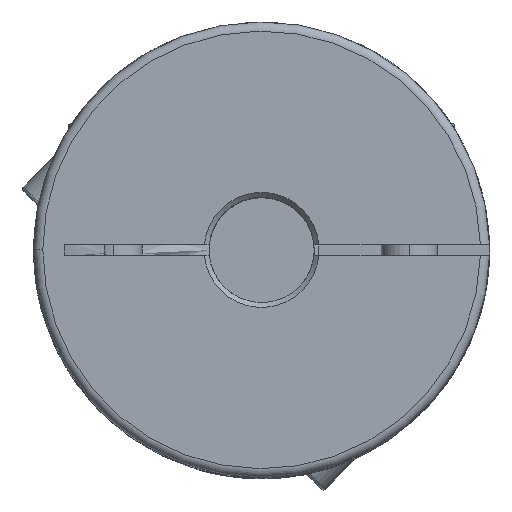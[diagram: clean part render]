
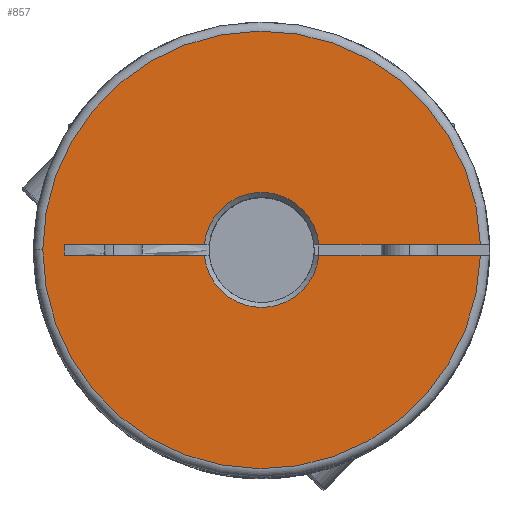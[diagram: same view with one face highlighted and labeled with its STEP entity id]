
A CAD part, top view. The second image highlights one B-rep face of the part: STEP entity #857.
In plain terms, the highlighted planar face has unit normal (0, 0, 1).
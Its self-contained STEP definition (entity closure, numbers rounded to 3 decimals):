
#857 = ADVANCED_FACE ( 'NONE', ( #10893 ), #9930, .F. ) ;
#1410 = EDGE_CURVE ( 'NONE', #11385, #11592, #16042, .T. ) ;
#1411 = EDGE_CURVE ( 'NONE', #11664, #16928, #16035, .T. ) ;
#1412 = EDGE_CURVE ( 'NONE', #11661, #11664, #16044, .T. ) ;
#1413 = EDGE_CURVE ( 'NONE', #11751, #11661, #16046, .T. ) ;
#1414 = EDGE_CURVE ( 'NONE', #11349, #11751, #16048, .T. ) ;
#1442 = EDGE_CURVE ( 'NONE', #11385, #16995, #16076, .T. ) ;
#1452 = EDGE_CURVE ( 'NONE', #11618, #11349, #16085, .T. ) ;
#1459 = EDGE_CURVE ( 'NONE', #11618, #11592, #16091, .T. ) ;
#1943 = EDGE_CURVE ( 'NONE', #16928, #16995, #12212, .T. ) ;
#5670 = DIRECTION ( 'NONE',  ( 1., 0., 0. ) ) ;
#5676 = CARTESIAN_POINT ( 'NONE',  ( 0., -0.75, 45.15 ) ) ;
#5751 = DIRECTION ( 'NONE',  ( 0., 1., 0. ) ) ;
#5761 = CARTESIAN_POINT ( 'NONE',  ( -28.138, -0.75, 45.15 ) ) ;
#5846 = AXIS2_PLACEMENT_3D ( 'NONE', #9936, #9918, #9925 ) ;
#5984 = DIRECTION ( 'NONE',  ( 1., 0., 0. ) ) ;
#5994 = CARTESIAN_POINT ( 'NONE',  ( 0., -0.75, 45.15 ) ) ;
#6460 = DIRECTION ( 'NONE',  ( 0., 0., -1. ) ) ;
#6470 = DIRECTION ( 'NONE',  ( 0., 1., 0. ) ) ;
#6479 = CARTESIAN_POINT ( 'NONE',  ( 0., 0., 45.15 ) ) ;
#6485 = DIRECTION ( 'NONE',  ( 0., 0., -1. ) ) ;
#6494 = DIRECTION ( 'NONE',  ( -1., 0., 0. ) ) ;
#6502 = DIRECTION ( 'NONE',  ( 0., 0., 1. ) ) ;
#6508 = CARTESIAN_POINT ( 'NONE',  ( 0., 0., 45.15 ) ) ;
#6513 = DIRECTION ( 'NONE',  ( 1., 0., 0. ) ) ;
#6518 = CARTESIAN_POINT ( 'NONE',  ( 0., 0.75, 45.15 ) ) ;
#6521 = DIRECTION ( 'NONE',  ( 0., 1., 0. ) ) ;
#6523 = CARTESIAN_POINT ( 'NONE',  ( 0., 0., 45.15 ) ) ;
#6530 = DIRECTION ( 'NONE',  ( 1., 0., 0. ) ) ;
#6542 = CARTESIAN_POINT ( 'NONE',  ( 0., 0.75, 45.15 ) ) ;
#6860 = AXIS2_PLACEMENT_3D ( 'NONE', #6523, #6485, #6521 ) ;
#6863 = AXIS2_PLACEMENT_3D ( 'NONE', #6508, #6502, #6494 ) ;
#6865 = AXIS2_PLACEMENT_3D ( 'NONE', #6479, #6460, #6470 ) ;
#7222 = AXIS2_PLACEMENT_3D ( 'NONE', #15542, #15543, #15544 ) ;
#9020 = EDGE_LOOP ( 'NONE', ( #16320, #16321, #16322, #16323, #16324, #16325, #16326, #16327, #16328 ) ) ;
#9142 = CARTESIAN_POINT ( 'NONE',  ( -28.138, 0.75, 45.15 ) ) ;
#9174 = CARTESIAN_POINT ( 'NONE',  ( 8.166, -0.75, 45.15 ) ) ;
#9264 = CARTESIAN_POINT ( 'NONE',  ( -8.166, -0.75, 45.15 ) ) ;
#9269 = CARTESIAN_POINT ( 'NONE',  ( -28.138, -0.75, 45.15 ) ) ;
#9301 = CARTESIAN_POINT ( 'NONE',  ( 8.166, 0.75, 45.15 ) ) ;
#9304 = CARTESIAN_POINT ( 'NONE',  ( 31.191, 0.75, 45.15 ) ) ;
#9356 = CARTESIAN_POINT ( 'NONE',  ( -8.166, 0.75, 45.15 ) ) ;
#9718 = CARTESIAN_POINT ( 'NONE',  ( -31.2, 0., 45.15 ) ) ;
#9785 = CARTESIAN_POINT ( 'NONE',  ( 31.191, -0.75, 45.15 ) ) ;
#9918 = DIRECTION ( 'NONE',  ( 0., 0., -1. ) ) ;
#9925 = DIRECTION ( 'NONE',  ( -1., 0., 0. ) ) ;
#9930 = PLANE ( 'NONE',  #5846 ) ;
#9936 = CARTESIAN_POINT ( 'NONE',  ( 0., 0., 45.15 ) ) ;
#10893 = FACE_OUTER_BOUND ( 'NONE', #9020, .T. ) ;
#11349 = VERTEX_POINT ( 'NONE', #9142 ) ;
#11385 = VERTEX_POINT ( 'NONE', #9174 ) ;
#11592 = VERTEX_POINT ( 'NONE', #9264 ) ;
#11618 = VERTEX_POINT ( 'NONE', #9269 ) ;
#11661 = VERTEX_POINT ( 'NONE', #9301 ) ;
#11664 = VERTEX_POINT ( 'NONE', #9304 ) ;
#11751 = VERTEX_POINT ( 'NONE', #9356 ) ;
#12212 = CIRCLE ( 'NONE', #7222, 31.2 ) ;
#15542 = CARTESIAN_POINT ( 'NONE',  ( 0., 0., 45.15 ) ) ;
#15543 = DIRECTION ( 'NONE',  ( 0., 0., 1. ) ) ;
#15544 = DIRECTION ( 'NONE',  ( -1., 0., 0. ) ) ;
#16035 = CIRCLE ( 'NONE', #6863, 31.2 ) ;
#16042 = CIRCLE ( 'NONE', #6860, 8.2 ) ;
#16044 = LINE ( 'NONE', #6542, #16047 ) ;
#16046 = CIRCLE ( 'NONE', #6865, 8.2 ) ;
#16047 = VECTOR ( 'NONE', #6530, 1000. ) ;
#16048 = LINE ( 'NONE', #6518, #16050 ) ;
#16050 = VECTOR ( 'NONE', #6513, 1000. ) ;
#16076 = LINE ( 'NONE', #5994, #16079 ) ;
#16079 = VECTOR ( 'NONE', #5984, 1000. ) ;
#16084 = VECTOR ( 'NONE', #5751, 1000. ) ;
#16085 = LINE ( 'NONE', #5761, #16084 ) ;
#16091 = LINE ( 'NONE', #5676, #16093 ) ;
#16093 = VECTOR ( 'NONE', #5670, 1000. ) ;
#16320 = ORIENTED_EDGE ( 'NONE', *, *, #1414, .T. ) ;
#16321 = ORIENTED_EDGE ( 'NONE', *, *, #1413, .T. ) ;
#16322 = ORIENTED_EDGE ( 'NONE', *, *, #1412, .T. ) ;
#16323 = ORIENTED_EDGE ( 'NONE', *, *, #1411, .T. ) ;
#16324 = ORIENTED_EDGE ( 'NONE', *, *, #1943, .T. ) ;
#16325 = ORIENTED_EDGE ( 'NONE', *, *, #1442, .F. ) ;
#16326 = ORIENTED_EDGE ( 'NONE', *, *, #1410, .T. ) ;
#16327 = ORIENTED_EDGE ( 'NONE', *, *, #1459, .F. ) ;
#16328 = ORIENTED_EDGE ( 'NONE', *, *, #1452, .T. ) ;
#16928 = VERTEX_POINT ( 'NONE', #9718 ) ;
#16995 = VERTEX_POINT ( 'NONE', #9785 ) ;
